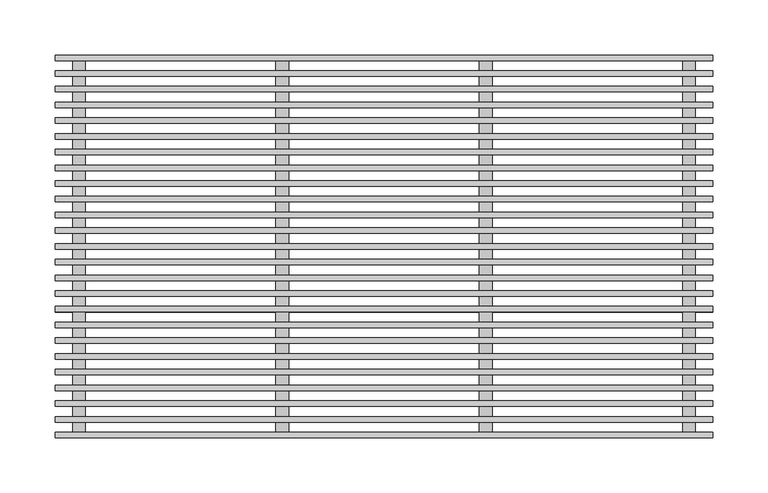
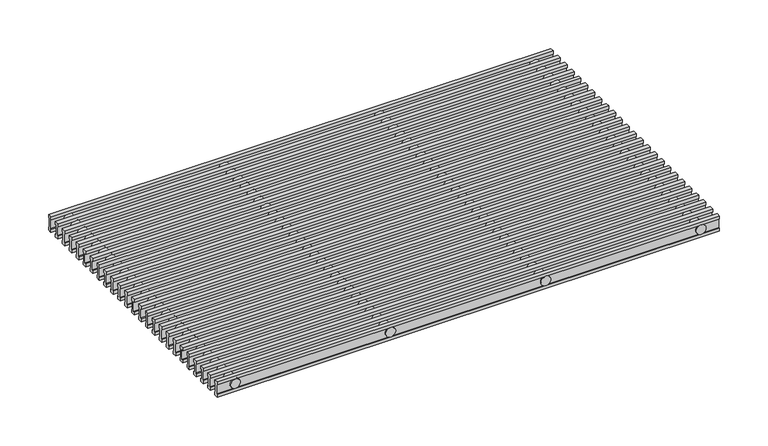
"""IFC4 building model written with IfcOpenShell, lengths in millimetres: proxy geometry, ♦ : РАП_Алюминиевая продольная/ Белый RAL 9016."""

import ifcopenshell
import ifcopenshell.guid

model = None  # the IFC model being written
_history = None  # IfcOwnerHistory: only IFC2X3 demands one
_inside = {}  # id of a spatial element -> (the spatial element, [elements in it])
_under = {}  # id of a project, library or spatial element -> (it, [spatial elements below it])
_declared = {}  # id of a project -> (the project, [libraries it declares])
_typed = {}  # id of a type object -> (the type object, [elements of that type])
_made_of = {}  # id of a material, layer set ... -> (it, [elements and type objects made of it])


def new_model(schema):
    """Start an empty IFC model of exactly this schema.

    Asked for "IFC4X3", IfcOpenShell would pick the latest addendum, in which some entities
    have other attributes; the version numbers below select the first issue.
    IFC2X3 requires an IfcOwnerHistory on every rooted entity: one is made here for all.
    """
    global model, _history
    if schema == "IFC4X3":
        model = ifcopenshell.file(schema_version=(4, 3, 0, 0))
    else:
        model = ifcopenshell.file(schema=schema)
    _inside.clear()
    _under.clear()
    _declared.clear()
    _typed.clear()
    _made_of.clear()
    _history = None
    if model.schema == "IFC2X3":
        org = make("IfcOrganization", Name="unknown")
        user = make(
            "IfcPersonAndOrganization",
            ThePerson=make("IfcPerson", FamilyName="unknown"),
            TheOrganization=org,
        )
        app = make(
            "IfcApplication",
            ApplicationDeveloper=org,
            Version="unknown",
            ApplicationFullName="unknown",
            ApplicationIdentifier="unknown",
        )
        _history = make(
            "IfcOwnerHistory",
            OwningUser=user,
            OwningApplication=app,
            ChangeAction="ADDED",
            CreationDate=0,
        )
    return model


def make(cls, **values):
    """One entity of the class cls with the attributes given. An attribute that is None is left unset."""
    return model.create_entity(
        cls, **{name: value for name, value in values.items() if value is not None}
    )


def rooted(cls, **values):
    """An entity with a GlobalId (a new one), such as an element, a storey or a relation."""
    return make(cls, GlobalId=ifcopenshell.guid.new(), OwnerHistory=_history, **values)


def si_unit(unit_type, name, prefix=None):
    """IfcSIUnit, for example si_unit("LENGTHUNIT", "METRE", prefix="MILLI")."""
    return make("IfcSIUnit", UnitType=unit_type, Prefix=prefix, Name=name)


def assignment(units):
    """IfcUnitAssignment: the units of a project."""
    return None if units is None else make("IfcUnitAssignment", Units=units)


def point(xyz):
    """IfcCartesianPoint."""
    return None if xyz is None else make("IfcCartesianPoint", Coordinates=xyz)


def direction(xyz):
    """IfcDirection."""
    return None if xyz is None else make("IfcDirection", DirectionRatios=xyz)


def frame(location, z_axis=None, x_axis=None):
    """IfcAxis2Placement3D, a coordinate frame: its origin and axes. An axis left out is left unset."""
    return make(
        "IfcAxis2Placement3D",
        Location=point(location),
        Axis=direction(z_axis),
        RefDirection=direction(x_axis),
    )


def frame_2d(location, x_axis=None):
    """IfcAxis2Placement2D, a coordinate frame in the plane: its origin and x axis."""
    return make(
        "IfcAxis2Placement2D", Location=point(location), RefDirection=direction(x_axis)
    )


def origin():
    """The frame at (0, 0, 0) with its axes left unset."""
    return frame((0.0, 0.0, 0.0))


def place(relative_to, where):
    """IfcLocalPlacement: puts the frame where relative to a parent placement (None: the world)."""
    return make(
        "IfcLocalPlacement", PlacementRelTo=relative_to, RelativePlacement=where
    )


def context(
    kind, dimensions, precision=None, world=None, true_north=None, identifier=None
):
    """IfcGeometricRepresentationContext, for example the 3D "Model" context."""
    return make(
        "IfcGeometricRepresentationContext",
        ContextIdentifier=identifier,
        ContextType=kind,
        CoordinateSpaceDimension=dimensions,
        Precision=precision,
        WorldCoordinateSystem=world,
        TrueNorth=true_north,
    )


def project(units=None, contexts=None):
    """IfcProject with its units and contexts."""
    return rooted(
        "IfcProject",
        Name="project",
        RepresentationContexts=contexts,
        UnitsInContext=assignment(units),
    )


def spatial(cls, under=None, at=None, **own):
    """A site, building, storey or space (cls), placed at a placement, below another one or the project."""
    s = rooted(cls, ObjectPlacement=at, **own)
    if under is not None:
        _under.setdefault(under.id(), (under, []))[1].append(s)
    return s


def polyline(points):
    """IfcPolyline through the points."""
    return make("IfcPolyline", Points=[point(p) for p in points])


def circle_curve(where, radius):
    """IfcCircle in the frame where."""
    return make("IfcCircle", Position=where, Radius=radius)


def trimmed(basis, trim1, trim2, sense, master):
    """IfcTrimmedCurve: the piece of a basis curve between two trims."""
    return make(
        "IfcTrimmedCurve",
        BasisCurve=basis,
        Trim1=trim1,
        Trim2=trim2,
        SenseAgreement=sense,
        MasterRepresentation=master,
    )


def segment(curve, same_sense, transition):
    """IfcCompositeCurveSegment."""
    return make(
        "IfcCompositeCurveSegment",
        Transition=transition,
        SameSense=same_sense,
        ParentCurve=curve,
    )


def composite_curve(segments, self_intersect=None):
    """IfcCompositeCurve: segments joined end to end."""
    return make("IfcCompositeCurve", Segments=segments, SelfIntersect=self_intersect)


def outline(outer, holes=None, kind="AREA"):
    """IfcArbitraryClosedProfileDef: a profile drawn as a closed curve; with holes, ...WithVoids."""
    if holes is None:
        return make("IfcArbitraryClosedProfileDef", ProfileType=kind, OuterCurve=outer)
    return make(
        "IfcArbitraryProfileDefWithVoids",
        ProfileType=kind,
        OuterCurve=outer,
        InnerCurves=holes,
    )


def extrude(swept, where, along, depth):
    """IfcExtrudedAreaSolid: the profile swept, set in the frame where, extruded along a direction by depth."""
    return make(
        "IfcExtrudedAreaSolid",
        SweptArea=swept,
        Position=where,
        ExtrudedDirection=direction(along),
        Depth=depth,
    )


def shape(context_of_items, identifier, shape_type, items):
    """IfcShapeRepresentation: the items that make up one representation, for example the "Body"."""
    return make(
        "IfcShapeRepresentation",
        ContextOfItems=context_of_items,
        RepresentationIdentifier=identifier,
        RepresentationType=shape_type,
        Items=items,
    )


def source(mapping_origin, context_of_items, identifier, shape_type, items):
    """IfcRepresentationMap: a shape defined once, which mapped items show again and again."""
    return make(
        "IfcRepresentationMap",
        MappingOrigin=mapping_origin,
        MappedRepresentation=shape(context_of_items, identifier, shape_type, items),
    )


def transform(
    local_origin,
    x_axis=None,
    y_axis=None,
    z_axis=None,
    scale=None,
    scale2=None,
    scale3=None,
    uniform=True,
):
    """IfcCartesianTransformationOperator3D, or its non-uniform kind. x_axis, y_axis, z_axis: its Axis1, 2, 3."""
    if uniform:
        return make(
            "IfcCartesianTransformationOperator3D",
            Axis1=direction(x_axis),
            Axis2=direction(y_axis),
            LocalOrigin=point(local_origin),
            Scale=scale,
            Axis3=direction(z_axis),
        )
    return make(
        "IfcCartesianTransformationOperator3DnonUniform",
        Axis1=direction(x_axis),
        Axis2=direction(y_axis),
        LocalOrigin=point(local_origin),
        Scale=scale,
        Axis3=direction(z_axis),
        Scale2=scale2,
        Scale3=scale3,
    )


def mapped(mapping_source, mapping_target):
    """IfcMappedItem: shows the shape of a source again, moved by a transform."""
    return make(
        "IfcMappedItem", MappingSource=mapping_source, MappingTarget=mapping_target
    )


def made_of(thing, what):
    """Note that an element or type object is made of a material, layer set ...; save() writes the relation."""
    if what is not None:
        _made_of.setdefault(what.id(), (what, []))[1].append(thing)
    return thing


def element(
    cls,
    number,
    at=None,
    inside=None,
    cuts=None,
    type_object=None,
    material=None,
    context=None,
    identifier="Body",
    shape_type=None,
    held_by="IfcProductDefinitionShape",
    body=None,
    shapes=None,
    **own,
):
    """One element of the class cls, such as IfcWall. Its Tag is "e" and its number.

    at: its placement. inside: the storey or other place that contains it. cuts: it is an
    opening in that element (IfcRelVoidsElement). A single representation is given by context,
    identifier, shape_type and body (its items); several are given by shapes. held_by: the class
    of the entity that holds the representations. save() writes the other relations.
    """
    e = rooted(cls, Tag="e%d" % number, ObjectPlacement=at, **own)
    if body is not None:
        shapes = [shape(context, identifier, shape_type, body)]
    if shapes is not None:
        e.Representation = make(held_by, Representations=shapes)
    if inside is not None:
        _inside.setdefault(inside.id(), (inside, []))[1].append(e)
    if cuts is not None:
        rooted(
            "IfcRelVoidsElement", RelatingBuildingElement=cuts, RelatedOpeningElement=e
        )
    if type_object is not None:
        _typed.setdefault(type_object.id(), (type_object, []))[1].append(e)
    return made_of(e, material)


def aggregate(whole, parts):
    """IfcRelAggregates: a whole, such as a stair, and the parts it consists of."""
    return rooted("IfcRelAggregates", RelatingObject=whole, RelatedObjects=parts)


def save(model, path):
    """Write the relations noted so far, then the file.

    IfcRelAggregates (storeys below a building ...), IfcRelContainedInSpatialStructure (elements
    in a storey), IfcRelDefinesByType, IfcRelAssociatesMaterial and IfcRelDeclares: one each for
    every whole, place, type object, material and project.
    """
    for whole, parts in _under.values():
        aggregate(whole, parts)
    for where, things in _inside.values():
        rooted(
            "IfcRelContainedInSpatialStructure",
            RelatedElements=things,
            RelatingStructure=where,
        )
    for kind, things in _typed.values():
        rooted("IfcRelDefinesByType", RelatedObjects=things, RelatingType=kind)
    for what, things in _made_of.values():
        rooted("IfcRelAssociatesMaterial", RelatedObjects=things, RelatingMaterial=what)
    for by, libraries in _declared.values():
        rooted("IfcRelDeclares", RelatingContext=by, RelatedDefinitions=libraries)
    model.write(path)


def mechanical_equipment_829e7b9b(model_context):
    return source(origin(), model_context, "Body", "SweptSolid", [
        extrude(outline(polyline([(-154.525, 0.0), (-154.525, -3.86), (-155.775, -3.86), (-155.775, -15.44), (-154.525, -15.44), (-154.525, -19.3), (-159.525, -19.3), (-159.525, -15.44), (-158.275, -15.44), (-158.275, -3.86), (-159.525, -3.86), (-159.525, 0.0), (-154.525, 0.0)])), frame((1.2, 0.0, 0.0), z_axis=(1.0, 0.0, 0.0), x_axis=(0.0, 1.0, 0.0)), (0.0, 0.0, 1.0), 597.6),
        extrude(outline(polyline([(-140.25, 0.0), (-140.25, -3.86), (-141.5, -3.86), (-141.5, -15.44), (-140.25, -15.44), (-140.25, -19.3), (-145.25, -19.3), (-145.25, -15.44), (-144.0, -15.44), (-144.0, -3.86), (-145.25, -3.86), (-145.25, 0.0), (-140.25, 0.0)])), frame((1.2, 0.0, 0.0), z_axis=(1.0, 0.0, 0.0), x_axis=(0.0, 1.0, 0.0)), (0.0, 0.0, 1.0), 597.6),
        extrude(outline(polyline([(-125.975, 0.0), (-125.975, -3.86), (-127.225, -3.86), (-127.225, -15.44), (-125.975, -15.44), (-125.975, -19.3), (-130.975, -19.3), (-130.975, -15.44), (-129.725, -15.44), (-129.725, -3.86), (-130.975, -3.86), (-130.975, 0.0), (-125.975, 0.0)])), frame((1.2, 0.0, 0.0), z_axis=(1.0, 0.0, 0.0), x_axis=(0.0, 1.0, 0.0)), (0.0, 0.0, 1.0), 597.6),
        extrude(outline(polyline([(-111.7, 0.0), (-111.7, -3.86), (-112.95, -3.86), (-112.95, -15.44), (-111.7, -15.44), (-111.7, -19.3), (-116.7, -19.3), (-116.7, -15.44), (-115.45, -15.44), (-115.45, -3.86), (-116.7, -3.86), (-116.7, 0.0), (-111.7, 0.0)])), frame((1.2, 0.0, 0.0), z_axis=(1.0, 0.0, 0.0), x_axis=(0.0, 1.0, 0.0)), (0.0, 0.0, 1.0), 597.6),
        extrude(outline(polyline([(-97.425, 0.0), (-97.425, -3.86), (-98.675, -3.86), (-98.675, -15.44), (-97.425, -15.44), (-97.425, -19.3), (-102.425, -19.3), (-102.425, -15.44), (-101.175, -15.44), (-101.175, -3.86), (-102.425, -3.86), (-102.425, 0.0), (-97.425, 0.0)])), frame((1.2, 0.0, 0.0), z_axis=(1.0, 0.0, 0.0), x_axis=(0.0, 1.0, 0.0)), (0.0, 0.0, 1.0), 597.6),
        extrude(outline(polyline([(-83.15, 0.0), (-83.15, -3.86), (-84.4, -3.86), (-84.4, -15.44), (-83.15, -15.44), (-83.15, -19.3), (-88.15, -19.3), (-88.15, -15.44), (-86.9, -15.44), (-86.9, -3.86), (-88.15, -3.86), (-88.15, 0.0), (-83.15, 0.0)])), frame((1.2, 0.0, 0.0), z_axis=(1.0, 0.0, 0.0), x_axis=(0.0, 1.0, 0.0)), (0.0, 0.0, 1.0), 597.6),
        extrude(outline(polyline([(-68.875, 0.0), (-68.875, -3.86), (-70.125, -3.86), (-70.125, -15.44), (-68.875, -15.44), (-68.875, -19.3), (-73.875, -19.3), (-73.875, -15.44), (-72.625, -15.44), (-72.625, -3.86), (-73.875, -3.86), (-73.875, 0.0), (-68.875, 0.0)])), frame((1.2, 0.0, 0.0), z_axis=(1.0, 0.0, 0.0), x_axis=(0.0, 1.0, 0.0)), (0.0, 0.0, 1.0), 597.6),
        extrude(outline(polyline([(-54.6, 0.0), (-54.6, -3.86), (-55.85, -3.86), (-55.85, -15.44), (-54.6, -15.44), (-54.6, -19.3), (-59.6, -19.3), (-59.6, -15.44), (-58.35, -15.44), (-58.35, -3.86), (-59.6, -3.86), (-59.6, 0.0), (-54.6, 0.0)])), frame((1.2, 0.0, 0.0), z_axis=(1.0, 0.0, 0.0), x_axis=(0.0, 1.0, 0.0)), (0.0, 0.0, 1.0), 597.6),
        extrude(outline(polyline([(-40.325, 0.0), (-40.325, -3.86), (-41.575, -3.86), (-41.575, -15.44), (-40.325, -15.44), (-40.325, -19.3), (-45.325, -19.3), (-45.325, -15.44), (-44.075, -15.44), (-44.075, -3.86), (-45.325, -3.86), (-45.325, 0.0), (-40.325, 0.0)])), frame((1.2, 0.0, 0.0), z_axis=(1.0, 0.0, 0.0), x_axis=(0.0, 1.0, 0.0)), (0.0, 0.0, 1.0), 597.6),
        extrude(outline(polyline([(-26.05, 0.0), (-26.05, -3.86), (-27.3, -3.86), (-27.3, -15.44), (-26.05, -15.44), (-26.05, -19.3), (-31.05, -19.3), (-31.05, -15.44), (-29.8, -15.44), (-29.8, -3.86), (-31.05, -3.86), (-31.05, 0.0), (-26.05, 0.0)])), frame((1.2, 0.0, 0.0), z_axis=(1.0, 0.0, 0.0), x_axis=(0.0, 1.0, 0.0)), (0.0, 0.0, 1.0), 597.6),
        extrude(outline(polyline([(-11.775, 0.0), (-11.775, -3.86), (-13.025, -3.86), (-13.025, -15.44), (-11.775, -15.44), (-11.775, -19.3), (-16.775, -19.3), (-16.775, -15.44), (-15.525, -15.44), (-15.525, -3.86), (-16.775, -3.86), (-16.775, 0.0), (-11.775, 0.0)])), frame((1.2, 0.0, 0.0), z_axis=(1.0, 0.0, 0.0), x_axis=(0.0, 1.0, 0.0)), (0.0, 0.0, 1.0), 597.6),
        extrude(outline(polyline([(2.5, 0.0), (2.5, -3.86), (1.25, -3.86), (1.25, -15.44), (2.5, -15.44), (2.5, -19.3), (-2.5, -19.3), (-2.5, -15.44), (-1.25, -15.44), (-1.25, -3.86), (-2.5, -3.86), (-2.5, 0.0), (2.5, 0.0)])), frame((1.2, 0.0, 0.0), z_axis=(1.0, 0.0, 0.0), x_axis=(0.0, 1.0, 0.0)), (0.0, 0.0, 1.0), 597.6),
        extrude(outline(polyline([(16.775, 0.0), (16.775, -3.86), (15.525, -3.86), (15.525, -15.44), (16.775, -15.44), (16.775, -19.3), (11.775, -19.3), (11.775, -15.44), (13.025, -15.44), (13.025, -3.86), (11.775, -3.86), (11.775, 0.0), (16.775, 0.0)])), frame((1.2, 0.0, 0.0), z_axis=(1.0, 0.0, 0.0), x_axis=(0.0, 1.0, 0.0)), (0.0, 0.0, 1.0), 597.6),
        extrude(outline(polyline([(31.05, 0.0), (31.05, -3.86), (29.8, -3.86), (29.8, -15.44), (31.05, -15.44), (31.05, -19.3), (26.05, -19.3), (26.05, -15.44), (27.3, -15.44), (27.3, -3.86), (26.05, -3.86), (26.05, 0.0), (31.05, 0.0)])), frame((1.2, 0.0, 0.0), z_axis=(1.0, 0.0, 0.0), x_axis=(0.0, 1.0, 0.0)), (0.0, 0.0, 1.0), 597.6),
        extrude(outline(polyline([(45.325, 0.0), (45.325, -3.86), (44.075, -3.86), (44.075, -15.44), (45.325, -15.44), (45.325, -19.3), (40.325, -19.3), (40.325, -15.44), (41.575, -15.44), (41.575, -3.86), (40.325, -3.86), (40.325, 0.0), (45.325, 0.0)])), frame((1.2, 0.0, 0.0), z_axis=(1.0, 0.0, 0.0), x_axis=(0.0, 1.0, 0.0)), (0.0, 0.0, 1.0), 597.6),
        extrude(outline(polyline([(59.6, 0.0), (59.6, -3.86), (58.35, -3.86), (58.35, -15.44), (59.6, -15.44), (59.6, -19.3), (54.6, -19.3), (54.6, -15.44), (55.85, -15.44), (55.85, -3.86), (54.6, -3.86), (54.6, 0.0), (59.6, 0.0)])), frame((1.2, 0.0, 0.0), z_axis=(1.0, 0.0, 0.0), x_axis=(0.0, 1.0, 0.0)), (0.0, 0.0, 1.0), 597.6),
        extrude(outline(polyline([(73.875, 0.0), (73.875, -3.86), (72.625, -3.86), (72.625, -15.44), (73.875, -15.44), (73.875, -19.3), (68.875, -19.3), (68.875, -15.44), (70.125, -15.44), (70.125, -3.86), (68.875, -3.86), (68.875, 0.0), (73.875, 0.0)])), frame((1.2, 0.0, 0.0), z_axis=(1.0, 0.0, 0.0), x_axis=(0.0, 1.0, 0.0)), (0.0, 0.0, 1.0), 597.6),
        extrude(outline(composite_curve([segment(trimmed(circle_curve(frame_2d((-9.6, 392.3333333)), 5.8), [point((-9.6, 386.5333333))], [point((-9.6, 398.1333333))], False, "CARTESIAN"), True, "CONTINUOUS"), segment(trimmed(circle_curve(frame_2d((-9.6, 392.3333333)), 5.8), [point((-9.6, 398.1333333))], [point((-9.6, 386.5333333))], False, "CARTESIAN"), True, "CONTINUOUS")], self_intersect=False)), frame((0.0, -173.8, 0.0), z_axis=(0.0, 1.0, 0.0), x_axis=(0.0, 0.0, 1.0)), (0.0, 0.0, 1.0), 347.6),
        extrude(outline(composite_curve([segment(trimmed(circle_curve(frame_2d((-9.6, 207.6666667)), 5.8), [point((-9.6, 201.8666667))], [point((-9.6, 213.4666667))], False, "CARTESIAN"), True, "CONTINUOUS"), segment(trimmed(circle_curve(frame_2d((-9.6, 207.6666667)), 5.8), [point((-9.6, 213.4666667))], [point((-9.6, 201.8666667))], False, "CARTESIAN"), True, "CONTINUOUS")], self_intersect=False)), frame((0.0, -173.8, 0.0), z_axis=(0.0, 1.0, 0.0), x_axis=(0.0, 0.0, 1.0)), (0.0, 0.0, 1.0), 347.6),
        extrude(outline(composite_curve([segment(trimmed(circle_curve(frame_2d((-9.6, 577.0)), 5.8), [point((-9.6, 571.2))], [point((-9.6, 582.8))], False, "CARTESIAN"), True, "CONTINUOUS"), segment(trimmed(circle_curve(frame_2d((-9.6, 577.0)), 5.8), [point((-9.6, 582.8))], [point((-9.6, 571.2))], False, "CARTESIAN"), True, "CONTINUOUS")], self_intersect=False)), frame((0.0, -173.8, 0.0), z_axis=(0.0, 1.0, 0.0), x_axis=(0.0, 0.0, 1.0)), (0.0, 0.0, 1.0), 347.6),
        extrude(outline(composite_curve([segment(trimmed(circle_curve(frame_2d((-9.6, 23.0)), 5.8), [point((-9.6, 17.2))], [point((-9.6, 28.8))], False, "CARTESIAN"), True, "CONTINUOUS"), segment(trimmed(circle_curve(frame_2d((-9.6, 23.0)), 5.8), [point((-9.6, 28.8))], [point((-9.6, 17.2))], False, "CARTESIAN"), True, "CONTINUOUS")], self_intersect=False)), frame((0.0, -173.8, 0.0), z_axis=(0.0, 1.0, 0.0), x_axis=(0.0, 0.0, 1.0)), (0.0, 0.0, 1.0), 347.6),
        extrude(outline(polyline([(88.15, 0.0), (88.15, -3.86), (86.9, -3.86), (86.9, -15.44), (88.15, -15.44), (88.15, -19.3), (83.15, -19.3), (83.15, -15.44), (84.4, -15.44), (84.4, -3.86), (83.15, -3.86), (83.15, 0.0), (88.15, 0.0)])), frame((1.2, 0.0, 0.0), z_axis=(1.0, 0.0, 0.0), x_axis=(0.0, 1.0, 0.0)), (0.0, 0.0, 1.0), 597.6),
        extrude(outline(polyline([(102.425, 0.0), (102.425, -3.86), (101.175, -3.86), (101.175, -15.44), (102.425, -15.44), (102.425, -19.3), (97.425, -19.3), (97.425, -15.44), (98.675, -15.44), (98.675, -3.86), (97.425, -3.86), (97.425, 0.0), (102.425, 0.0)])), frame((1.2, 0.0, 0.0), z_axis=(1.0, 0.0, 0.0), x_axis=(0.0, 1.0, 0.0)), (0.0, 0.0, 1.0), 597.6),
        extrude(outline(polyline([(116.7, 0.0), (116.7, -3.86), (115.45, -3.86), (115.45, -15.44), (116.7, -15.44), (116.7, -19.3), (111.7, -19.3), (111.7, -15.44), (112.95, -15.44), (112.95, -3.86), (111.7, -3.86), (111.7, 0.0), (116.7, 0.0)])), frame((1.2, 0.0, 0.0), z_axis=(1.0, 0.0, 0.0), x_axis=(0.0, 1.0, 0.0)), (0.0, 0.0, 1.0), 597.6),
        extrude(outline(polyline([(130.975, 0.0), (130.975, -3.86), (129.725, -3.86), (129.725, -15.44), (130.975, -15.44), (130.975, -19.3), (125.975, -19.3), (125.975, -15.44), (127.225, -15.44), (127.225, -3.86), (125.975, -3.86), (125.975, 0.0), (130.975, 0.0)])), frame((1.2, 0.0, 0.0), z_axis=(1.0, 0.0, 0.0), x_axis=(0.0, 1.0, 0.0)), (0.0, 0.0, 1.0), 597.6),
        extrude(outline(polyline([(145.25, 0.0), (145.25, -3.86), (144.0, -3.86), (144.0, -15.44), (145.25, -15.44), (145.25, -19.3), (140.25, -19.3), (140.25, -15.44), (141.5, -15.44), (141.5, -3.86), (140.25, -3.86), (140.25, 0.0), (145.25, 0.0)])), frame((1.2, 0.0, 0.0), z_axis=(1.0, 0.0, 0.0), x_axis=(0.0, 1.0, 0.0)), (0.0, 0.0, 1.0), 597.6),
        extrude(outline(polyline([(159.525, 0.0), (159.525, -3.86), (158.275, -3.86), (158.275, -15.44), (159.525, -15.44), (159.525, -19.3), (154.525, -19.3), (154.525, -15.44), (155.775, -15.44), (155.775, -3.86), (154.525, -3.86), (154.525, 0.0), (159.525, 0.0)])), frame((1.2, 0.0, 0.0), z_axis=(1.0, 0.0, 0.0), x_axis=(0.0, 1.0, 0.0)), (0.0, 0.0, 1.0), 597.6),
        extrude(outline(polyline([(-168.8, 0.0), (-168.8, -3.86), (-170.05, -3.86), (-170.05, -15.44), (-168.8, -15.44), (-168.8, -19.3), (-173.8, -19.3), (-173.8, -15.44), (-172.55, -15.44), (-172.55, -3.86), (-173.8, -3.86), (-173.8, 0.0), (-168.8, 0.0)])), frame((1.2, 0.0, 0.0), z_axis=(1.0, 0.0, 0.0), x_axis=(0.0, 1.0, 0.0)), (0.0, 0.0, 1.0), 597.6),
        extrude(outline(polyline([(173.8, 0.0), (173.8, -3.86), (172.55, -3.86), (172.55, -15.44), (173.8, -15.44), (173.8, -19.3), (168.8, -19.3), (168.8, -15.44), (170.05, -15.44), (170.05, -3.86), (168.8, -3.86), (168.8, 0.0), (173.8, 0.0)])), frame((1.2, 0.0, 0.0), z_axis=(1.0, 0.0, 0.0), x_axis=(0.0, 1.0, 0.0)), (0.0, 0.0, 1.0), 597.6),
    ])


if __name__ == "__main__":
    model = new_model("IFC4")
    model_context = context("Model", 3, world=origin())
    ifc_project = project(units=[si_unit("LENGTHUNIT", "METRE", prefix="MILLI")], contexts=[model_context])
    site = spatial("IfcSite", under=ifc_project)
    building = spatial("IfcBuilding", under=site)
    placement = place(None, origin())
    mechanical_equipment_shape = mechanical_equipment_829e7b9b(model_context)
    element("IfcBuildingElementProxy", 1, Name="♦ : РАП_Алюминиевая продольная/ Белый RAL 9016", ObjectType="♦ : РАП_Алюминиевая продольная/ Белый RAL 9016", at=placement, inside=building, context=model_context, shape_type="MappedRepresentation", body=[
        mapped(mechanical_equipment_shape, transform((0.0, 0.0, 0.0), x_axis=(1.0, 0.0, 0.0), y_axis=(0.0, 1.0, 0.0), z_axis=(0.0, 0.0, 1.0))),
    ])
    save(model, "model.ifc")
